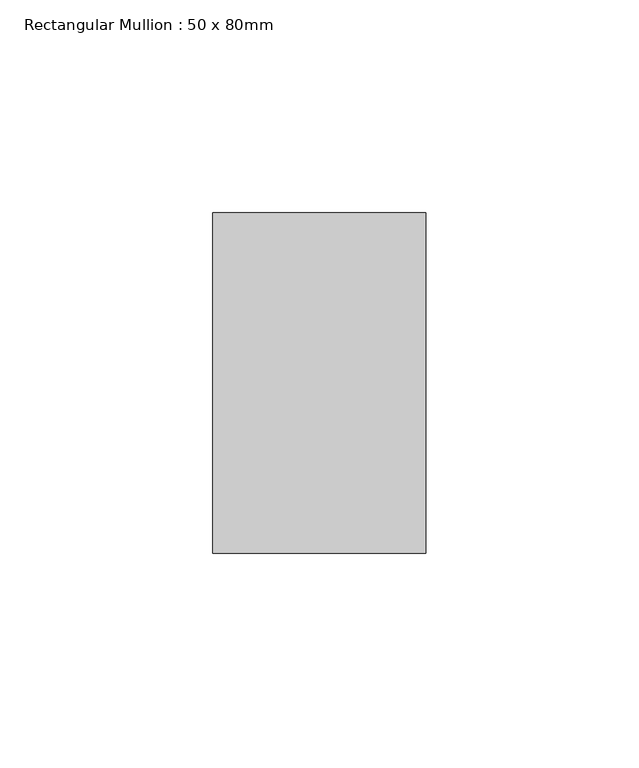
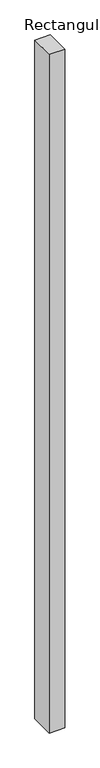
"""IFC4 building model written with IfcOpenShell, lengths in millimetres: member geometry, Rectangular Mullion : 50 x 80mm."""

from ifc_helpers import new_model, si_unit, frame, origin, place, context, project, spatial, polyline, outline, extrude, source, transform, mapped, element, save


def rectangular_mullion_50_x_80mm_fdfd2208(model_context):
    return source(origin(), model_context, "Body", "SweptSolid", [
        extrude(outline(polyline([(0.0, 55.0), (0.0, -25.0), (-50.0, -25.0), (-50.0, 55.0), (0.0, 55.0)])), frame((0.0, 0.0, -2313.5608581), z_axis=(0.0, 0.0, 1.0), x_axis=(1.0, 0.0, 0.0)), (0.0, 0.0, 1.0), 2313.5608581),
    ])


if __name__ == "__main__":
    model = new_model("IFC4")
    model_context = context("Model", 3, world=origin())
    ifc_project = project(units=[si_unit("LENGTHUNIT", "METRE", prefix="MILLI")], contexts=[model_context])
    site = spatial("IfcSite", under=ifc_project)
    building = spatial("IfcBuilding", under=site)
    placement = place(None, origin())
    rectangular_mullion_50_x_80mm_shape = rectangular_mullion_50_x_80mm_fdfd2208(model_context)
    element("IfcMember", 1, ObjectType="Rectangular Mullion : 50 x 80mm", at=placement, inside=building, context=model_context, shape_type="MappedRepresentation", body=[
        mapped(rectangular_mullion_50_x_80mm_shape, transform((0.0, 0.0, 0.0), x_axis=(1.0, 0.0, 0.0), y_axis=(0.0, 1.0, 0.0), z_axis=(0.0, 0.0, 1.0))),
    ])
    save(model, "model.ifc")
